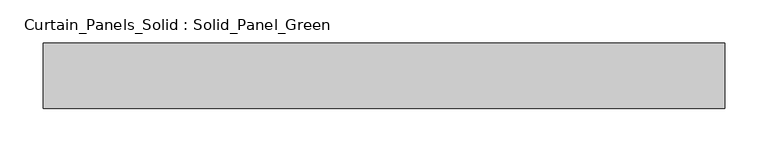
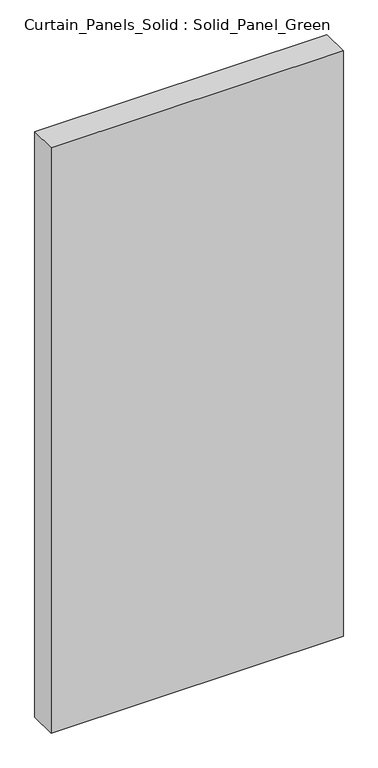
"""IFC4 building model written with IfcOpenShell, lengths in millimetres: plate geometry, Curtain_Panels_Solid : Solid_Panel_Green."""

from ifc_helpers import new_model, si_unit, origin, origin_with_axes, place, context, project, spatial, polyline, outline, extrude, source, transform, mapped, element, save


def curtain_panels_solid_solid_panel_green_66bc6fd1(model_context):
    return source(origin(), model_context, "Body", "SweptSolid", [
        extrude(outline(polyline([(391.6666668, -25.0), (-391.6666668, -25.0), (-391.6666668, 50.0), (391.6666668, 50.0), (391.6666668, -25.0)])), origin_with_axes(), (0.0, 0.0, 1.0), 1657.5),
    ])


if __name__ == "__main__":
    model = new_model("IFC4")
    model_context = context("Model", 3, world=origin())
    ifc_project = project(units=[si_unit("LENGTHUNIT", "METRE", prefix="MILLI")], contexts=[model_context])
    site = spatial("IfcSite", under=ifc_project)
    building = spatial("IfcBuilding", under=site)
    placement = place(None, origin())
    curtain_panels_solid_solid_panel_green_shape = curtain_panels_solid_solid_panel_green_66bc6fd1(model_context)
    element("IfcPlate", 1, ObjectType="Curtain_Panels_Solid : Solid_Panel_Green", at=placement, inside=building, context=model_context, shape_type="MappedRepresentation", body=[
        mapped(curtain_panels_solid_solid_panel_green_shape, transform((0.0, 0.0, 0.0), x_axis=(1.0, 0.0, 0.0), y_axis=(0.0, 1.0, 0.0), z_axis=(0.0, 0.0, 1.0))),
    ])
    save(model, "model.ifc")
